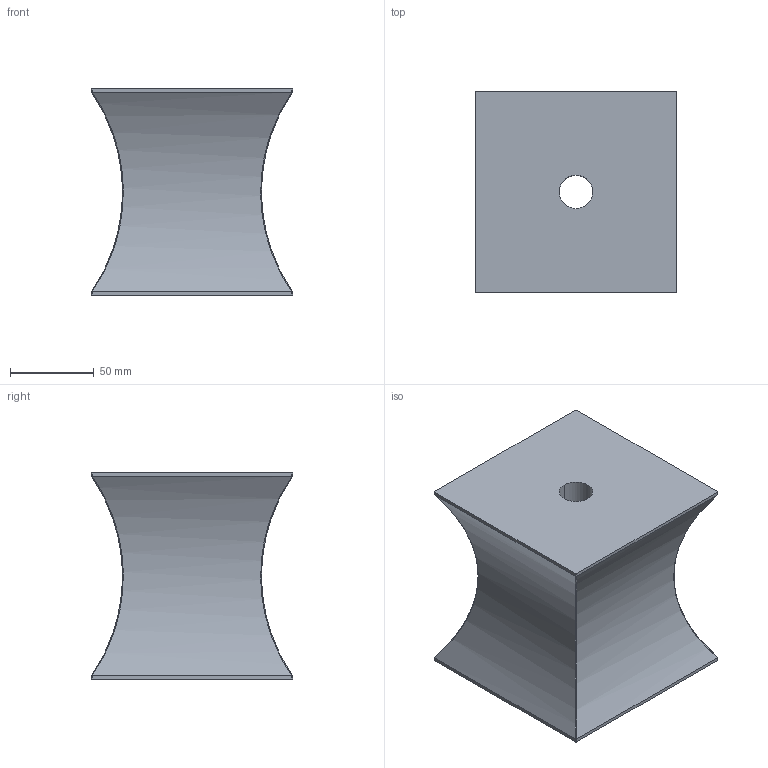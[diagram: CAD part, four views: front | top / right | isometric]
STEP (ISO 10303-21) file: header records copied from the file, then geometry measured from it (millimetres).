
FILE_DESCRIPTION(/* description */ (''),/* implementation_level */ '2;1');
FILE_NAME(/* name */ '3d_qx120-123_06526_r00.stp',/* time_stamp */ '2011-01-10T14:11:40+09:00',/* author */ ('MISUMI'),/* organization */ (''),/* preprocessor_version */ 'ST-DEVELOPER v11',/* originating_system */ 'UGS - NX 5.0',/* authorisation */ '');
FILE_SCHEMA (('CONFIG_CONTROL_DESIGN'));
Length unit declared in the file: millimetre
Products named in the file (1): 3d_qx120-123_06526_r00
Bounding box: 120 x 120 x 123 mm (x, y, z)
Volume: 1103862.8 mm3; surface area: 86053.1 mm2
Topology: 1 solids, 1 shells, 28 faces, 78 edges, 52 vertices
Faces by surface type: cylinder 14, plane 10, bspline 4
Entity records: 8512 total; most frequent: CARTESIAN_POINT 7763, ORIENTED_EDGE 156, DIRECTION 108, EDGE_CURVE 78, VERTEX_POINT 52, AXIS2_PLACEMENT_3D 37, LINE 34, VECTOR 34
